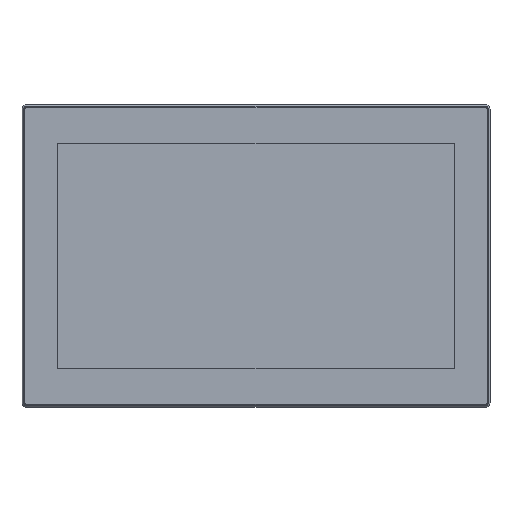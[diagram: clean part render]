
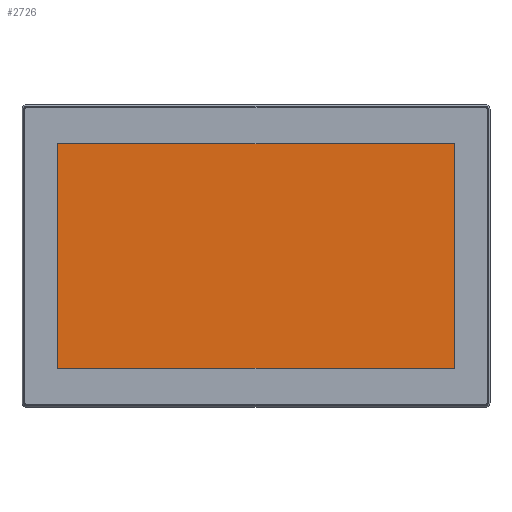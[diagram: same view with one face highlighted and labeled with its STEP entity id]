
A CAD part, top view. The second image highlights one B-rep face of the part: STEP entity #2726.
In plain terms, the highlighted planar face has unit normal (0, 0, 1).
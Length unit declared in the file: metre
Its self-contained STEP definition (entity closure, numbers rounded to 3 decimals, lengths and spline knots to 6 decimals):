
#2726=ADVANCED_FACE('2:352535',(#8380),#8381,.F.);
#8380=FACE_OUTER_BOUND('',#17683,.T.);
#8381=PLANE('',#17684);
#17683=EDGE_LOOP('',(#40701,#40702,#40703,#40704));
#17684=AXIS2_PLACEMENT_3D('',#40705,#40706,#40707);
#40701=ORIENTED_EDGE('',*,*,#49872,.F.);
#40702=ORIENTED_EDGE('',*,*,#49870,.F.);
#40703=ORIENTED_EDGE('',*,*,#49867,.F.);
#40704=ORIENTED_EDGE('',*,*,#49874,.F.);
#40705=CARTESIAN_POINT('',(0.204,0.132,0.064125));
#40706=DIRECTION('',(0.0,0.0,-1.0));
#40707=DIRECTION('',(0.0,-1.0,0.0));
#49867=EDGE_CURVE('2:373052',#63037,#63038,#63039,.T.);
#49870=EDGE_CURVE('2:373061',#63038,#63042,#63043,.T.);
#49872=EDGE_CURVE('2:373067',#63042,#63045,#63046,.T.);
#49874=EDGE_CURVE('2:373073',#63045,#63037,#63048,.T.);
#63037=VERTEX_POINT('',#87401);
#63038=VERTEX_POINT('',#87402);
#63039=LINE('',#87403,#87404);
#63042=VERTEX_POINT('',#87409);
#63043=LINE('',#87410,#87411);
#63045=VERTEX_POINT('',#87414);
#63046=LINE('',#87415,#87416);
#63048=LINE('',#87419,#87420);
#87401=CARTESIAN_POINT('',(0.031,0.03435,0.064125));
#87402=CARTESIAN_POINT('',(0.031,0.22965,0.064125));
#87403=CARTESIAN_POINT('',(0.031,0.132,0.064125));
#87404=VECTOR('',#98380,0.001);
#87409=CARTESIAN_POINT('',(0.377,0.22965,0.064125));
#87410=CARTESIAN_POINT('',(0.204,0.22965,0.064125));
#87411=VECTOR('',#98383,0.001);
#87414=CARTESIAN_POINT('',(0.377,0.03435,0.064125));
#87415=CARTESIAN_POINT('',(0.377,0.132,0.064125));
#87416=VECTOR('',#98385,0.001);
#87419=CARTESIAN_POINT('',(0.204,0.03435,0.064125));
#87420=VECTOR('',#98387,0.001);
#98380=DIRECTION('',(0.0,1.0,0.0));
#98383=DIRECTION('',(1.0,0.0,0.0));
#98385=DIRECTION('',(0.0,-1.0,0.0));
#98387=DIRECTION('',(-1.0,0.0,0.0));
